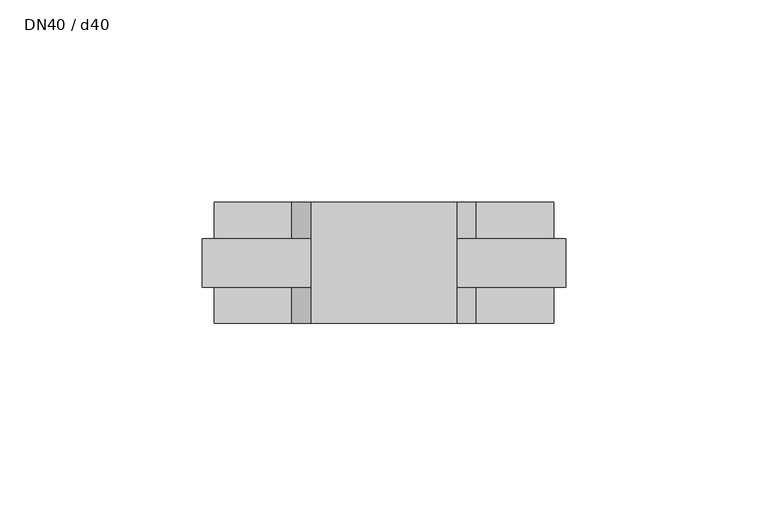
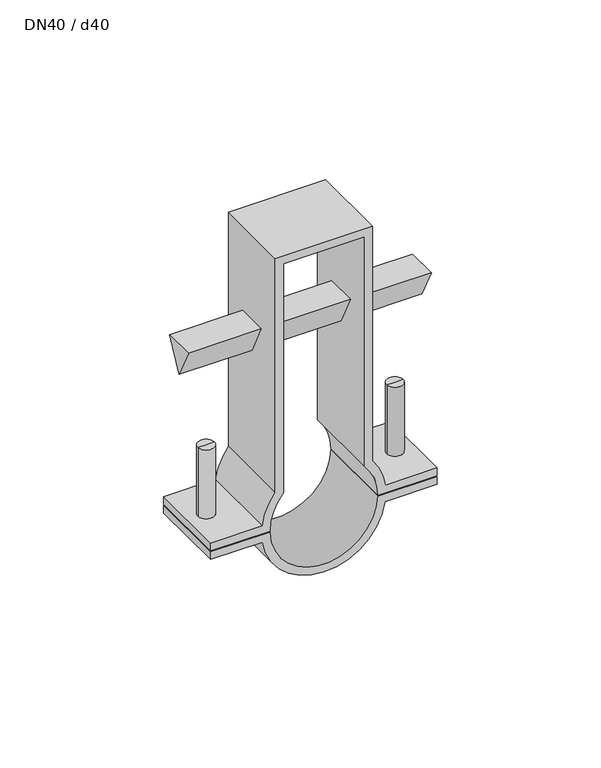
"""IFC4 building model written with IfcOpenShell, lengths in millimetres: unitary equipment geometry, NLRS_52_ME_UN_Geberit Pluvia beugel_PRO_101948 : DN40 / d40."""

from ifc_helpers import new_model, si_unit, frame, origin, place, context, project, spatial, polyline, circle_curve, source, transform, mapped, element, save
from ifc_brep_helpers import plane_surface, cylinder_surface, revolved_surface, advanced_brep


def dn40_d40_80e8cd63(model_context):
    return source(origin(), model_context, "Body", "AdvancedBrep", [
        advanced_brep(
        [(-20.0, -15.0, 0.0), (-15.0, -15.0, 13.2287566), (-15.0, -15.0, 103.0), (15.0, -15.0, 103.0), (15.0, -15.0, 13.2287566), (20.0, -15.0, 0.0), (42.0, -15.0, 0.0), (42.0, -15.0, 3.0), (22.8035085, -15.0, 3.0), (18.0, -15.0, 14.3178211), (18.0, -15.0, 106.0), (-18.0, -15.0, 106.0), (-18.0, -15.0, 14.3178211), (-22.8035085, -15.0, 3.0), (-42.0, -15.0, 3.0), (-42.0, -15.0, 0.0), (19.9953837, -15.0, -0.4296875), (-19.9953837, -15.0, -0.4296875), (-42.0, -15.0, -0.4296875), (-42.0, -15.0, -3.4296875), (-22.7428504, -15.0, -3.4296875), (22.7428504, -15.0, -3.4296875), (42.0, -15.0, -3.4296875), (42.0, -15.0, -0.4296875), (19.9953837, 15.0, -0.4296875), (42.0, 15.0, -0.4296875), (42.0, 15.0, -3.4296875), (22.7428504, 15.0, -3.4296875), (-22.7428504, 15.0, -3.4296875), (-42.0, 15.0, -3.4296875), (-42.0, 15.0, -0.4296875), (-19.9953837, 15.0, -0.4296875), (-20.0, 15.0, 0.0), (-42.0, 15.0, 0.0), (-42.0, 15.0, 3.0), (-22.8035085, 15.0, 3.0), (-18.0, 15.0, 14.3178211), (-18.0, 15.0, 106.0), (18.0, 15.0, 106.0), (18.0, 15.0, 14.3178211), (22.8035085, 15.0, 3.0), (42.0, 15.0, 3.0), (42.0, 15.0, 0.0), (20.0, 15.0, 0.0), (15.0, 15.0, 13.2287566), (15.0, 15.0, 103.0), (-15.0, 15.0, 103.0), (-15.0, 15.0, 13.2287566), (38.0, 0.0, 0.0), (32.0, 0.0, 0.0), (40.0, 0.0, -3.4296875), (30.0, 0.0, -3.4296875), (32.0, 0.0, -0.4296875), (38.0, 0.0, -0.4296875), (32.0, 0.0, 3.0), (38.0, 0.0, 3.0), (-38.0, 0.0, 3.0), (-32.0, 0.0, 3.0), (-32.0, 0.0, 0.0), (-38.0, 0.0, 0.0), (-38.0, 0.0, -0.4296875), (-32.0, 0.0, -0.4296875), (-30.0, 0.0, -3.4296875), (-40.0, 0.0, -3.4296875), (-15.0, 0.0, 61.0), (-15.0, -6.0, 73.0), (-15.0, 6.0, 73.0), (15.0, -6.0, 73.0), (15.0, 0.0, 61.0), (15.0, 6.0, 73.0), (18.0, 0.0, 61.0), (18.0, -6.0, 73.0), (18.0, 6.0, 73.0), (-18.0, -6.0, 73.0), (-18.0, 0.0, 61.0), (-18.0, 6.0, 73.0), (-35.0, 0.0, -4.8396453), (-40.0, 0.0, -4.8396453), (-30.0, 0.0, -4.8396453), (-32.0, 0.0, 30.0), (-38.0, 0.0, 30.0), (-35.0, 0.0, 30.0), (30.0, 0.0, -4.8396453), (40.0, 0.0, -4.8396453), (35.0, 0.0, -4.8396453), (35.0, 0.0, 30.0), (38.0, 0.0, 30.0), (32.0, 0.0, 30.0), (-45.0, 0.0, 61.0), (-45.0, -6.0, 73.0), (-45.0, 6.0, 73.0), (45.0, 0.0, 61.0), (45.0, 6.0, 73.0), (45.0, -6.0, 73.0)],
        [
            (0, 1, circle_curve(frame((0.0, -15.0, 0.0), z_axis=(0.0, 1.0, 0.0), x_axis=(1.0, 0.0, 0.0)), 20.0)),
            (1, 2),
            (2, 3),
            (3, 4),
            (4, 5, circle_curve(frame((0.0, -15.0, 0.0), z_axis=(0.0, 1.0, 0.0), x_axis=(1.0, 0.0, 0.0)), 20.0)),
            (5, 6),
            (6, 7),
            (7, 8),
            (8, 9, circle_curve(frame((0.0, -15.0, 0.0), z_axis=(0.0, -1.0, 0.0), x_axis=(1.0, 0.0, 0.0)), 23.0)),
            (9, 10),
            (10, 11),
            (11, 12),
            (12, 13, circle_curve(frame((0.0, -15.0, 0.0), z_axis=(0.0, -1.0, 0.0), x_axis=(1.0, 0.0, 0.0)), 23.0)),
            (13, 14),
            (14, 15),
            (15, 0),
            (16, 17, circle_curve(frame((0.0, -15.0, 0.0), z_axis=(0.0, 1.0, 0.0), x_axis=(1.0, 0.0, 0.0)), 20.0)),
            (17, 18),
            (18, 19),
            (19, 20),
            (20, 21, circle_curve(frame((0.0, -15.0, 0.0), z_axis=(0.0, -1.0, 0.0), x_axis=(1.0, 0.0, 0.0)), 23.0)),
            (21, 22),
            (22, 23),
            (23, 16),
            (24, 25),
            (25, 26),
            (26, 27),
            (27, 28, circle_curve(frame((0.0, 15.0, 0.0), z_axis=(0.0, 1.0, 0.0), x_axis=(1.0, 0.0, 0.0)), 23.0)),
            (28, 29),
            (29, 30),
            (30, 31),
            (31, 24, circle_curve(frame((0.0, 15.0, 0.0), z_axis=(0.0, -1.0, 0.0), x_axis=(1.0, 0.0, 0.0)), 20.0)),
            (32, 33),
            (33, 34),
            (34, 35),
            (35, 36, circle_curve(frame((0.0, 15.0, 0.0), z_axis=(0.0, 1.0, 0.0), x_axis=(1.0, 0.0, 0.0)), 23.0)),
            (36, 37),
            (37, 38),
            (38, 39),
            (39, 40, circle_curve(frame((0.0, 15.0, 0.0), z_axis=(0.0, 1.0, 0.0), x_axis=(1.0, 0.0, 0.0)), 23.0)),
            (40, 41),
            (41, 42),
            (42, 43),
            (43, 44, circle_curve(frame((0.0, 15.0, 0.0), z_axis=(0.0, -1.0, 0.0), x_axis=(1.0, 0.0, 0.0)), 20.0)),
            (44, 45),
            (45, 46),
            (46, 47),
            (47, 32, circle_curve(frame((0.0, 15.0, 0.0), z_axis=(0.0, -1.0, 0.0), x_axis=(1.0, 0.0, 0.0)), 20.0)),
            (0, 32),
            (47, 1),
            (16, 24),
            (31, 17),
            (5, 43),
            (42, 6),
            (48, 49, circle_curve(frame((35.0, 0.0, 0.0), z_axis=(0.0, 0.0, 1.0), x_axis=(1.0, 0.0, 0.0)), 3.0)),
            (49, 48, circle_curve(frame((35.0, 0.0, 0.0), z_axis=(0.0, 0.0, 1.0), x_axis=(1.0, 0.0, 0.0)), 3.0)),
            (21, 27),
            (26, 22),
            (50, 51, circle_curve(frame((35.0, 0.0, -3.4296875), z_axis=(0.0, 0.0, 1.0), x_axis=(1.0, 0.0, 0.0)), 5.0)),
            (51, 50, circle_curve(frame((35.0, 0.0, -3.4296875), z_axis=(0.0, 0.0, 1.0), x_axis=(1.0, 0.0, 0.0)), 5.0)),
            (23, 25),
            (52, 53, circle_curve(frame((35.0, 0.0, -0.4296875), z_axis=(0.0, 0.0, -1.0), x_axis=(1.0, 0.0, 0.0)), 3.0)),
            (53, 52, circle_curve(frame((35.0, 0.0, -0.4296875), z_axis=(0.0, 0.0, -1.0), x_axis=(1.0, 0.0, 0.0)), 3.0)),
            (7, 41),
            (40, 8),
            (54, 55, circle_curve(frame((35.0, 0.0, 3.0), z_axis=(0.0, 0.0, -1.0), x_axis=(1.0, 0.0, 0.0)), 3.0)),
            (55, 54, circle_curve(frame((35.0, 0.0, 3.0), z_axis=(0.0, 0.0, -1.0), x_axis=(1.0, 0.0, 0.0)), 3.0)),
            (12, 36),
            (35, 13),
            (20, 28),
            (34, 14),
            (56, 57, circle_curve(frame((-35.0, 0.0, 3.0), z_axis=(0.0, 0.0, -1.0), x_axis=(-1.0, 0.0, 0.0)), 3.0)),
            (57, 56, circle_curve(frame((-35.0, 0.0, 3.0), z_axis=(0.0, 0.0, -1.0), x_axis=(-1.0, 0.0, 0.0)), 3.0)),
            (15, 33),
            (58, 59, circle_curve(frame((-35.0, 0.0, 0.0), z_axis=(0.0, 0.0, 1.0), x_axis=(-1.0, 0.0, 0.0)), 3.0)),
            (59, 58, circle_curve(frame((-35.0, 0.0, 0.0), z_axis=(0.0, 0.0, 1.0), x_axis=(-1.0, 0.0, 0.0)), 3.0)),
            (30, 18),
            (60, 61, circle_curve(frame((-35.0, 0.0, -0.4296875), z_axis=(0.0, 0.0, -1.0), x_axis=(-1.0, 0.0, 0.0)), 3.0)),
            (61, 60, circle_curve(frame((-35.0, 0.0, -0.4296875), z_axis=(0.0, 0.0, -1.0), x_axis=(-1.0, 0.0, 0.0)), 3.0)),
            (19, 29),
            (62, 63, circle_curve(frame((-35.0, 0.0, -3.4296875), z_axis=(0.0, 0.0, 1.0), x_axis=(-1.0, 0.0, 0.0)), 5.0)),
            (63, 62, circle_curve(frame((-35.0, 0.0, -3.4296875), z_axis=(0.0, 0.0, 1.0), x_axis=(-1.0, 0.0, 0.0)), 5.0)),
            (46, 2),
            (64, 65),
            (65, 66),
            (66, 64),
            (45, 3),
            (44, 4),
            (67, 68),
            (68, 69),
            (69, 67),
            (39, 9),
            (38, 10),
            (70, 71),
            (71, 72),
            (72, 70),
            (37, 11),
            (73, 74),
            (74, 75),
            (75, 73),
            (76, 77),
            (77, 78, circle_curve(frame((-35.0, 0.0, -4.8396453), z_axis=(0.0, 0.0, -1.0), x_axis=(-1.0, 0.0, 0.0)), 5.0)),
            (78, 76),
            (78, 77, circle_curve(frame((-35.0, 0.0, -4.8396453), z_axis=(0.0, 0.0, -1.0), x_axis=(-1.0, 0.0, 0.0)), 5.0)),
            (79, 80, circle_curve(frame((-35.0, 0.0, 30.0), z_axis=(0.0, 0.0, 1.0), x_axis=(-1.0, 0.0, 0.0)), 3.0)),
            (80, 81),
            (81, 79),
            (80, 79, circle_curve(frame((-35.0, 0.0, 30.0), z_axis=(0.0, 0.0, 1.0), x_axis=(-1.0, 0.0, 0.0)), 3.0)),
            (79, 57),
            (56, 80),
            (60, 59),
            (58, 61),
            (77, 63),
            (62, 78),
            (82, 83, circle_curve(frame((35.0, 0.0, -4.8396453), z_axis=(0.0, 0.0, -1.0), x_axis=(1.0, 0.0, 0.0)), 5.0)),
            (83, 84),
            (84, 82),
            (83, 82, circle_curve(frame((35.0, 0.0, -4.8396453), z_axis=(0.0, 0.0, -1.0), x_axis=(1.0, 0.0, 0.0)), 5.0)),
            (85, 86),
            (86, 87, circle_curve(frame((35.0, 0.0, 30.0), z_axis=(0.0, 0.0, 1.0), x_axis=(1.0, 0.0, 0.0)), 3.0)),
            (87, 85),
            (87, 86, circle_curve(frame((35.0, 0.0, 30.0), z_axis=(0.0, 0.0, 1.0), x_axis=(1.0, 0.0, 0.0)), 3.0)),
            (86, 55),
            (54, 87),
            (48, 53),
            (52, 49),
            (82, 51),
            (50, 83),
            (88, 89),
            (89, 90),
            (90, 88),
            (91, 92),
            (92, 93),
            (93, 91),
            (88, 74),
            (73, 89),
            (93, 71),
            (70, 91),
            (64, 68),
            (67, 65),
            (75, 90),
            (92, 72),
            (69, 66),
        ],
        [
            plane_surface(frame((20.0, -15.0, 0.0), z_axis=(0.0, -1.0, 0.0), x_axis=(0.0, 0.0, -1.0))),
            plane_surface(frame((20.0, 15.0, 0.0), z_axis=(0.0, 1.0, 0.0), x_axis=(0.0, 0.0, 1.0))),
            revolved_surface(polyline([(20.0, 15.0, 0.0), (20.0, -15.0, 0.0)]), (0.0, 15.0, 0.0), (0.0, 1.0, 0.0)),
            revolved_surface(polyline([(20.0, 15.0, 0.0), (20.0, -15.0, 0.0)]), (0.0, 0.0, 0.0), (0.0, 1.0, 0.0)),
            plane_surface(frame((20.0, -15.0, 0.0), z_axis=(0.0, 0.0, -1.0), x_axis=(0.0, 1.0, 0.0))),
            plane_surface(frame((22.7428504, -15.0, -3.4296875), z_axis=(0.0, 0.0, -1.0), x_axis=(0.0, 1.0, 0.0))),
            plane_surface(frame((42.0, -15.0, -0.4296875), z_axis=(0.0, 0.0, 1.0), x_axis=(0.0, 1.0, 0.0))),
            plane_surface(frame((42.0, -15.0, 3.0), z_axis=(0.0, 0.0, 1.0), x_axis=(0.0, 1.0, 0.0))),
            cylinder_surface(frame((0.0, 15.0, 0.0), z_axis=(0.0, -1.0, 0.0), x_axis=(1.0, 0.0, 0.0)), 23.0),
            cylinder_surface(frame((0.0, 0.0, 0.0), z_axis=(0.0, -1.0, 0.0), x_axis=(1.0, 0.0, 0.0)), 23.0),
            plane_surface(frame((-22.8035085, -15.0, 3.0), z_axis=(0.0, 0.0, 1.0), x_axis=(0.0, 1.0, 0.0))),
            plane_surface(frame((-42.0, -15.0, 0.0), z_axis=(0.0, 0.0, -1.0), x_axis=(0.0, 1.0, 0.0))),
            plane_surface(frame((-19.9953837, -15.0, -0.4296875), z_axis=(0.0, 0.0, 1.0), x_axis=(0.0, 1.0, 0.0))),
            plane_surface(frame((-42.0, -15.0, -3.4296875), z_axis=(0.0, 0.0, -1.0), x_axis=(0.0, 1.0, 0.0))),
            plane_surface(frame((42.0, -15.0, 0.0), z_axis=(1.0, 0.0, 9.59070600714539e-12), x_axis=(0.0, 1.0, 0.0))),
            plane_surface(frame((-42.0, -15.0, 3.0), z_axis=(-1.0, 0.0, -9.585066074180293e-12), x_axis=(0.0, 1.0, 0.0))),
            plane_surface(frame((-42.0, -15.0, -0.4296875), z_axis=(-1.0, 0.0, 0.0), x_axis=(0.0, 1.0, 0.0))),
            plane_surface(frame((42.0, -15.0, -3.4296875), z_axis=(1.0, 0.0, -9.593525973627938e-12), x_axis=(0.0, 1.0, 0.0))),
            plane_surface(frame((-15.0, -15.0, 13.2287566), z_axis=(1.0, 0.0, 0.0), x_axis=(0.0, 1.0, 0.0))),
            plane_surface(frame((-15.0, -15.0, 103.0), z_axis=(0.0, 0.0, -1.0), x_axis=(0.0, 1.0, 0.0))),
            plane_surface(frame((15.0, -15.0, 103.0), z_axis=(-1.0, 0.0, 0.0), x_axis=(0.0, 1.0, 0.0))),
            plane_surface(frame((18.0, -15.0, 14.3178211), z_axis=(1.0, 0.0, 0.0), x_axis=(0.0, 1.0, 0.0))),
            plane_surface(frame((18.0, -15.0, 106.0), z_axis=(0.0, 0.0, 1.0), x_axis=(0.0, 1.0, 0.0))),
            plane_surface(frame((-18.0, -15.0, 106.0), z_axis=(-1.0, 0.0, 0.0), x_axis=(0.0, 1.0, 0.0))),
            plane_surface(frame((-35.0, 0.0, -4.8396453), z_axis=(0.0, 0.0, -1.0), x_axis=(-1.0, 0.0, 0.0))),
            plane_surface(frame((-35.0, 0.0, 30.0), z_axis=(0.0, 0.0, 1.0), x_axis=(-1.0, 0.0, 0.0))),
            cylinder_surface(frame((-35.0, 0.0, 30.0), z_axis=(0.0, 0.0, -1.0), x_axis=(-1.0, 0.0, 0.0)), 3.0),
            cylinder_surface(frame((-35.0, 0.0, 30.0), z_axis=(0.0, 0.0, -1.0), x_axis=(-1.0, 0.0, 0.0)), 5.0),
            plane_surface(frame((35.0, 0.0, -4.8396453), z_axis=(0.0, 0.0, -1.0), x_axis=(1.0, 0.0, 0.0))),
            plane_surface(frame((35.0, 0.0, 30.0), z_axis=(0.0, 0.0, 1.0), x_axis=(1.0, 0.0, 0.0))),
            cylinder_surface(frame((35.0, 0.0, 30.0), z_axis=(0.0, 0.0, 1.0), x_axis=(1.0, 0.0, 0.0)), 3.0),
            cylinder_surface(frame((35.0, 0.0, 30.0), z_axis=(0.0, 0.0, 1.0), x_axis=(1.0, 0.0, 0.0)), 5.0),
            plane_surface(frame((-45.0, 0.0, 0.0), z_axis=(-1.0, 0.0, 0.0), x_axis=(0.0, 0.0, 1.0))),
            plane_surface(frame((45.0, 0.0, 0.0), z_axis=(1.0, 0.0, 0.0), x_axis=(0.0, 0.0, 1.0))),
            plane_surface(frame((-45.0, 0.0, 61.0), z_axis=(0.0, -0.8944271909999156, -0.4472135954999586), x_axis=(1.0, 0.0, 0.0))),
            plane_surface(frame((-45.0, -6.0, 73.0), z_axis=(0.0, 0.0, 1.0), x_axis=(1.0, 0.0, 0.0))),
            plane_surface(frame((-45.0, 6.0, 73.0), z_axis=(0.0, 0.894427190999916, -0.4472135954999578), x_axis=(1.0, 0.0, 0.0))),
        ],
        [
            (0, [[1, 2, 3, 4, 5, 6, 7, 8, 9, 10, 11, 12, 13, 14, 15, 16]]),
            (0, [[17, 18, 19, 20, 21, 22, 23, 24]]),
            (1, [[25, 26, 27, 28, 29, 30, 31, 32]]),
            (1, [[33, 34, 35, 36, 37, 38, 39, 40, 41, 42, 43, 44, 45, 46, 47, 48]]),
            (2, [[-1, 49, -48, 50]]),
            (3, [[-17, 51, -32, 52]]),
            (4, [[-6, 53, -43, 54], [55, 56]]),
            (5, [[-22, 57, -27, 58], [59, 60]]),
            (6, [[-24, 61, -25, -51], [62, 63]]),
            (7, [[-8, 64, -41, 65], [66, 67]]),
            (8, [[-13, 68, -36, 69]]),
            (9, [[-21, 70, -28, -57]]),
            (10, [[-14, -69, -35, 71], [72, 73]]),
            (11, [[-16, 74, -33, -49], [75, 76]]),
            (12, [[-18, -52, -31, 77], [78, 79]]),
            (13, [[-20, 80, -29, -70], [81, 82]]),
            (14, [[-7, -54, -42, -64]]),
            (15, [[-15, -71, -34, -74]]),
            (16, [[-19, -77, -30, -80]]),
            (17, [[-23, -58, -26, -61]]),
            (18, [[-2, -50, -47, 83], [84, 85, 86]]),
            (19, [[-3, -83, -46, 87]]),
            (20, [[-4, -87, -45, 88], [89, 90, 91]]),
            (2, [[-5, -88, -44, -53]]),
            (8, [[-9, -65, -40, 92]]),
            (21, [[-10, -92, -39, 93], [94, 95, 96]]),
            (22, [[-11, -93, -38, 97]]),
            (23, [[-12, -97, -37, -68], [98, 99, 100]]),
            (24, [[101, 102, 103]]),
            (24, [[-101, -103, 104]]),
            (25, [[105, 106, 107]]),
            (25, [[-106, 108, -107]]),
            (26, [[-105, 109, -72, 110]]),
            (26, [[111, -75, 112, -78]]),
            (26, [[-108, -110, -73, -109]]),
            (26, [[-111, -79, -112, -76]]),
            (27, [[-102, 113, -81, 114]]),
            (27, [[-104, -114, -82, -113]]),
            (28, [[115, 116, 117]]),
            (28, [[-116, 118, -117]]),
            (29, [[119, 120, 121]]),
            (29, [[-119, -121, 122]]),
            (30, [[-120, 123, -66, 124]]),
            (30, [[125, -62, 126, -55]]),
            (30, [[-122, -124, -67, -123]]),
            (30, [[-125, -56, -126, -63]]),
            (31, [[-115, 127, -59, 128]]),
            (31, [[-118, -128, -60, -127]]),
            (32, [[129, 130, 131]]),
            (33, [[132, 133, 134]]),
            (34, [[-129, 135, -98, 136]]),
            (34, [[-134, 137, -94, 138]]),
            (34, [[139, -89, 140, -84]]),
            (35, [[-130, -136, -100, 141]]),
            (35, [[-133, 142, -95, -137]]),
            (35, [[-140, -91, 143, -85]]),
            (36, [[-131, -141, -99, -135]]),
            (36, [[-132, -138, -96, -142]]),
            (36, [[-139, -86, -143, -90]]),
        ],
    ),
    ])


if __name__ == "__main__":
    model = new_model("IFC4")
    model_context = context("Model", 3, world=origin())
    ifc_project = project(units=[si_unit("LENGTHUNIT", "METRE", prefix="MILLI")], contexts=[model_context])
    site = spatial("IfcSite", under=ifc_project)
    building = spatial("IfcBuilding", under=site)
    placement = place(None, origin())
    dn40_d40_shape = dn40_d40_80e8cd63(model_context)
    element("IfcUnitaryEquipment", 1, ObjectType="NLRS_52_ME_UN_Geberit Pluvia beugel_PRO_101948 : DN40 / d40", at=placement, inside=building, context=model_context, shape_type="MappedRepresentation", body=[
        mapped(dn40_d40_shape, transform((0.0, 0.0, 0.0), x_axis=(1.0, 0.0, 0.0), y_axis=(0.0, 1.0, 0.0), z_axis=(0.0, 0.0, 1.0))),
    ])
    save(model, "model.ifc")
